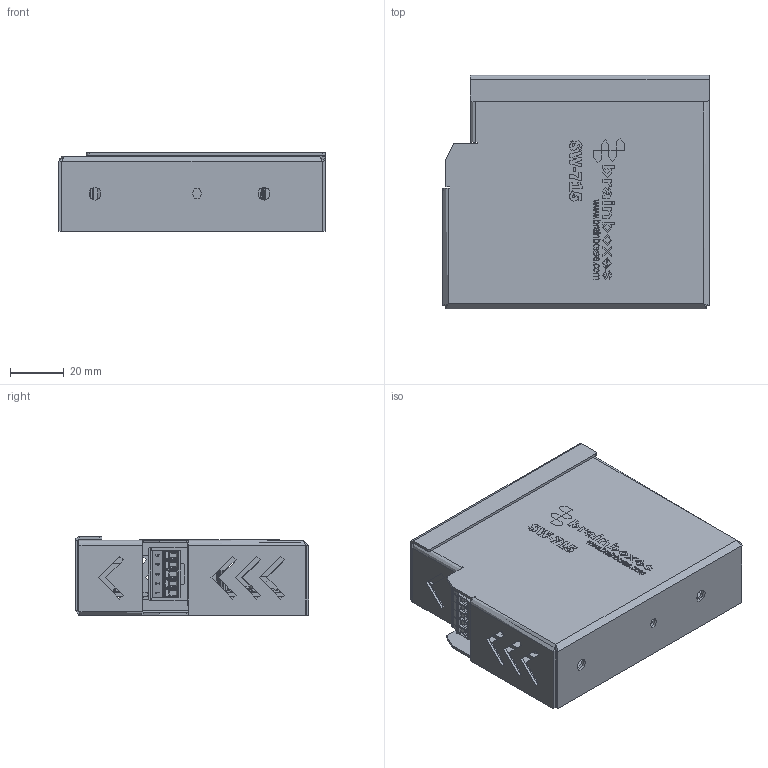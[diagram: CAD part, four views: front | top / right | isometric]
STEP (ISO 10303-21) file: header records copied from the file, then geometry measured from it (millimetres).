
FILE_DESCRIPTION(('FreeCAD Model'),'2;1');
FILE_NAME('Open CASCADE Shape Model','2023-03-16T14:14:55',('Author'),( ''),'Open CASCADE STEP processor 7.6','FreeCAD','Unknown');
FILE_SCHEMA(('AUTOMOTIVE_DESIGN { 1 0 10303 214 1 1 1 1 }'));
Products named in the file (1): For Colour SW-715
Bounding box: 99.3 x 87.15 x 29.4 mm (x, y, z)
Volume: 53919.4 mm3; surface area: 109641.9 mm2
Topology: 124 solids, 144 shells, 9814 faces, 28331 edges, 18427 vertices
Faces by surface type: plane 7893, cylinder 1194, bspline 566, extrusion 78, cone 34, torus 33, sphere 12, revolution 4
Full cylindrical faces by diameter (mm): 3.81 x1
Entity records: 396259 total; most frequent: CARTESIAN_POINT 69213, ORIENTED_EDGE 56638, DIRECTION 48854, EDGE_CURVE 28319, VECTOR 24334, LINE 24256, VERTEX_POINT 18427, AXIS2_PLACEMENT_3D 12258
